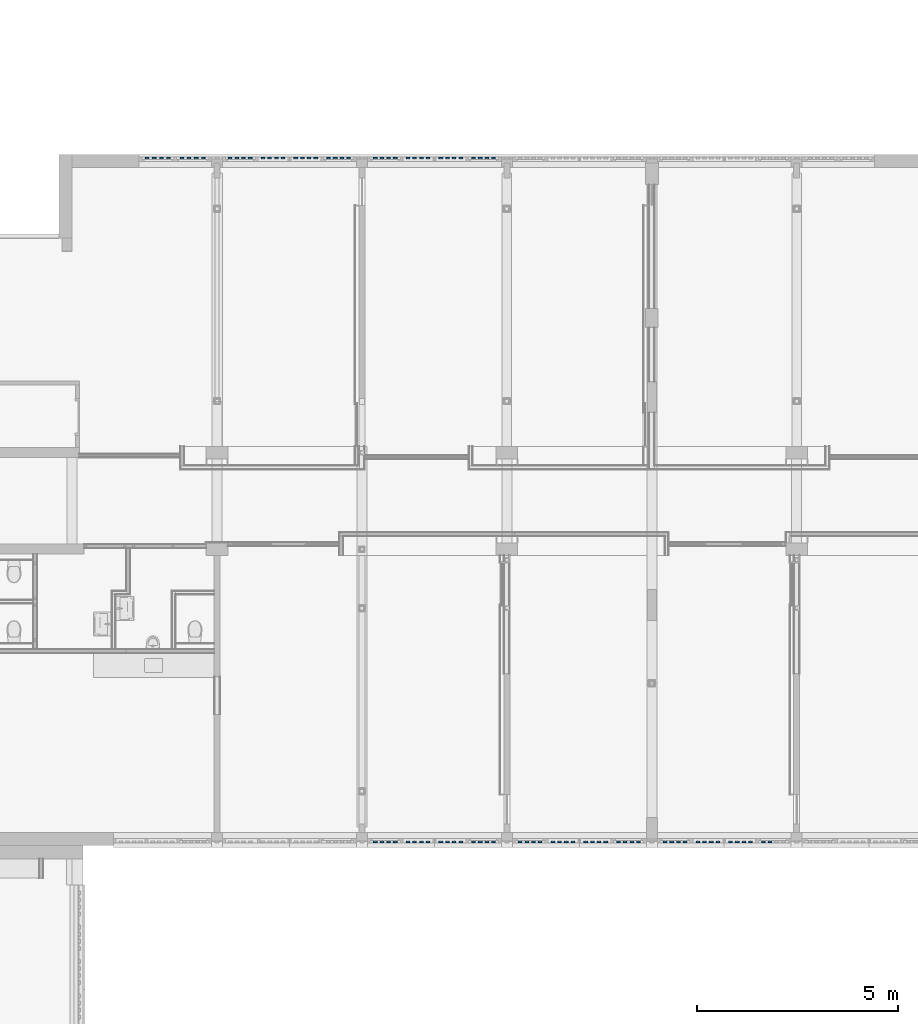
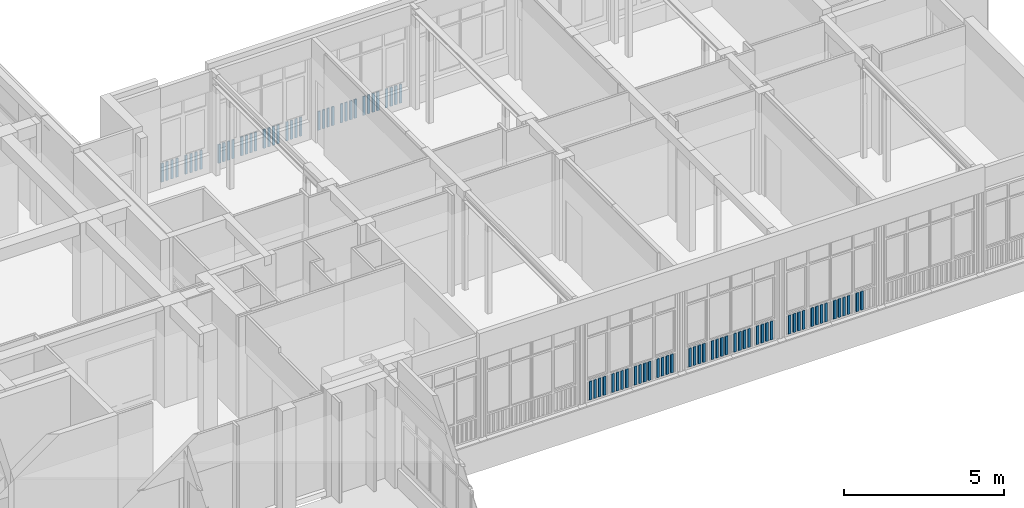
# One storey, part 54 of 135: 86 columns.
"""IFC2X3 building model written with IfcOpenShell, lengths in millimetres."""

from ifc_helpers import new_model, entity, si_unit, converted_unit, derived_unit, money_unit, direction, frame, origin_with_axes, place, context, subcontext, project, spatial, faceted_brep, material, type_object, element, save


model = new_model("IFC2X3")

# Units and contexts
model_context = context("Model", 3, precision=0.01, world=origin_with_axes(), true_north=direction((0.0, 1.0)))
body_context = subcontext(model_context, "Body", "Model", "MODEL_VIEW")
ifc_project = project(units=[si_unit("LENGTHUNIT", "METRE", prefix="MILLI"), si_unit("AREAUNIT", "SQUARE_METRE"), si_unit("VOLUMEUNIT", "CUBIC_METRE"), converted_unit("PLANEANGLEUNIT", "DEGREE", entity("IfcPlaneAngleMeasure", 0.0174532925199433), si_unit("PLANEANGLEUNIT", "RADIAN"), dimensions=[0, 0, 0, 0, 0, 0, 0]), money_unit("EUR"), converted_unit("TIMEUNIT", "Year", entity("IfcTimeMeasure", 31557600.0), si_unit("TIMEUNIT", "SECOND"), dimensions=[0, 0, 1, 0, 0, 0, 0]), si_unit("MASSUNIT", "GRAM", prefix="KILO"), si_unit("THERMODYNAMICTEMPERATUREUNIT", "DEGREE_CELSIUS"), si_unit("LUMINOUSINTENSITYUNIT", "LUMEN"), si_unit("ENERGYUNIT", "JOULE", prefix="MEGA"), derived_unit("THERMALCONDUCTANCEUNIT", [(si_unit("POWERUNIT", "WATT"), 1), (si_unit("LENGTHUNIT", "METRE"), -1), (si_unit("THERMODYNAMICTEMPERATUREUNIT", "KELVIN"), -1)]), derived_unit("SPECIFICHEATCAPACITYUNIT", [(si_unit("ENERGYUNIT", "JOULE"), 1), (si_unit("MASSUNIT", "GRAM", prefix="KILO"), -1), (si_unit("THERMODYNAMICTEMPERATUREUNIT", "KELVIN"), -1)]), derived_unit("MASSDENSITYUNIT", [(si_unit("MASSUNIT", "GRAM", prefix="KILO"), 1), (si_unit("VOLUMEUNIT", "CUBIC_METRE"), -1)])], contexts=[model_context])

# Site, building, storey
site_placement = place(None, origin_with_axes())
site = spatial("IfcSite", under=ifc_project, at=site_placement, Name="Site", CompositionType="ELEMENT")
building_placement = place(site_placement, origin_with_axes())
building = spatial("IfcBuilding", under=site, at=building_placement, Name="Naam gebouw", CompositionType="ELEMENT")
storey_placement = place(building_placement, origin_with_axes())
storey = spatial("IfcBuildingStorey", under=building, at=storey_placement, Name="Begane grond N", CompositionType="ELEMENT", Elevation=0.0)

# Columns
ifc_material = material(Name="Metaal - Staal C")
column_type = type_object("IfcColumnType", Name="Metaal - Staal C 90 x 44", PredefinedType="COLUMN")
for number, where, z_axis, x_axis, name in (
    (1, (39929.08333333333, 10752.91242510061, 66.99999999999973), (0.0, 0.0, 1.0), (1.0, 0.0, 0.0), "_Kolom-x"),
    (2, (40095.19444444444, 10752.91242510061, 66.99999999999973), (0.0, 0.0, 1.0), (1.0, 0.0, 0.0), "_Kolom-x"),
    (3, (40427.41666666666, 10752.91242510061, 66.99999999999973), (0.0, 0.0, 1.0), (1.0, 0.0, 0.0), "_Kolom-x"),
    (4, (40261.30555555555, 10752.91242510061, 66.99999999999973), (0.0, 0.0, 1.0), (1.0, 0.0, 0.0), "_Kolom-x"),
    (5, (40743.58333333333, 10752.91242510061, 66.99999999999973), (0.0, 0.0, 1.0), (1.0, 0.0, 0.0), "_Kolom-x"),
    (6, (40909.69444444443, 10752.91242510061, 66.99999999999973), (0.0, 0.0, 1.0), (1.0, 0.0, 0.0), "_Kolom-x"),
    (7, (41075.80555555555, 10752.91242510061, 66.99999999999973), (0.0, 0.0, 1.0), (1.0, 0.0, 0.0), "_Kolom-x"),
    (8, (41241.91666666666, 10752.91242510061, 66.99999999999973), (0.0, 0.0, 1.0), (1.0, 0.0, 0.0), "_Kolom-x"),
    (9, (41558.08333333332, 10752.91242510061, 66.99999999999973), (0.0, 0.0, 1.0), (1.0, 0.0, 0.0), "_Kolom-x"),
    (10, (41724.19444444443, 10752.91242510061, 66.99999999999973), (0.0, 0.0, 1.0), (1.0, 0.0, 0.0), "_Kolom-x"),
    (11, (41890.30555555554, 10752.91242510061, 66.99999999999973), (0.0, 0.0, 1.0), (1.0, 0.0, 0.0), "_Kolom-x"),
    (12, (42056.41666666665, 10752.91242510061, 66.99999999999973), (0.0, 0.0, 1.0), (1.0, 0.0, 0.0), "_Kolom-x"),
    (13, (42538.69444444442, 10752.91242510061, 66.99999999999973), (0.0, 0.0, 1.0), (1.0, 0.0, 0.0), "_Kolom-x"),
    (14, (42372.58333333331, 10752.91242510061, 66.99999999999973), (0.0, 0.0, 1.0), (1.0, 0.0, 0.0), "_Kolom-x"),
    (15, (42704.80555555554, 10752.91242510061, 66.99999999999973), (0.0, 0.0, 1.0), (1.0, 0.0, 0.0), "_Kolom-x"),
    (16, (43529.08333333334, 10752.91242510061, 66.99999999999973), (0.0, 0.0, 1.0), (1.0, 0.0, 0.0), "_Kolom-x"),
    (17, (43695.19444444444, 10752.91242510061, 66.99999999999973), (0.0, 0.0, 1.0), (1.0, 0.0, 0.0), "_Kolom-x"),
    (18, (42870.91666666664, 10752.91242510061, 66.99999999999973), (0.0, 0.0, 1.0), (1.0, 0.0, 0.0), "_Kolom-x"),
    (19, (44027.41666666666, 10752.91242510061, 66.99999999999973), (0.0, 0.0, 1.0), (1.0, 0.0, 0.0), "_Kolom-x"),
    (20, (43861.30555555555, 10752.91242510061, 66.99999999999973), (0.0, 0.0, 1.0), (1.0, 0.0, 0.0), "_Kolom-x"),
    (21, (44343.58333333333, 10752.91242510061, 66.99999999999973), (0.0, 0.0, 1.0), (1.0, 0.0, 0.0), "_Kolom-x"),
    (22, (44509.69444444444, 10752.91242510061, 66.99999999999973), (0.0, 0.0, 1.0), (1.0, 0.0, 0.0), "_Kolom-x"),
    (23, (44675.80555555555, 10752.91242510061, 66.99999999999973), (0.0, 0.0, 1.0), (1.0, 0.0, 0.0), "_Kolom-x"),
    (24, (44841.91666666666, 10752.91242510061, 66.99999999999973), (0.0, 0.0, 1.0), (1.0, 0.0, 0.0), "_Kolom-x"),
    (25, (45158.08333333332, 10752.91242510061, 66.99999999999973), (0.0, 0.0, 1.0), (1.0, 0.0, 0.0), "_Kolom-x"),
    (26, (45490.30555555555, 10752.91242510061, 66.99999999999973), (0.0, 0.0, 1.0), (1.0, 0.0, 0.0), "_Kolom-x"),
    (27, (45324.19444444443, 10752.91242510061, 66.99999999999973), (0.0, 0.0, 1.0), (1.0, 0.0, 0.0), "_Kolom-x"),
    (28, (45656.41666666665, 10752.91242510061, 66.99999999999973), (0.0, 0.0, 1.0), (1.0, 0.0, 0.0), "_Kolom-x"),
    (29, (45972.58333333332, 10752.91242510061, 66.99999999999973), (0.0, 0.0, 1.0), (1.0, 0.0, 0.0), "_Kolom-x"),
    (30, (46138.69444444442, 10752.91242510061, 66.99999999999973), (0.0, 0.0, 1.0), (1.0, 0.0, 0.0), "_Kolom-x"),
    (31, (46470.91666666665, 10752.91242510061, 66.99999999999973), (0.0, 0.0, 1.0), (1.0, 0.0, 0.0), "_Kolom-x"),
    (32, (47129.08333333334, 10752.91242510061, 66.99999999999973), (0.0, 0.0, 1.0), (1.0, 0.0, 0.0), "_Kolom-x"),
    (33, (47295.19444444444, 10752.91242510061, 66.99999999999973), (0.0, 0.0, 1.0), (1.0, 0.0, 0.0), "_Kolom-x"),
    (34, (46304.80555555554, 10752.91242510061, 66.99999999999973), (0.0, 0.0, 1.0), (1.0, 0.0, 0.0), "_Kolom-x"),
    (35, (47461.30555555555, 10752.91242510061, 66.99999999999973), (0.0, 0.0, 1.0), (1.0, 0.0, 0.0), "_Kolom-x"),
    (36, (47943.58333333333, 10752.91242510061, 66.99999999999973), (0.0, 0.0, 1.0), (1.0, 0.0, 0.0), "_Kolom-x"),
    (37, (47627.41666666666, 10752.91242510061, 66.99999999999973), (0.0, 0.0, 1.0), (1.0, 0.0, 0.0), "_Kolom-x"),
    (38, (48109.69444444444, 10752.91242510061, 66.99999999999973), (0.0, 0.0, 1.0), (1.0, 0.0, 0.0), "_Kolom-x"),
    (39, (48275.80555555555, 10752.91242510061, 66.99999999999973), (0.0, 0.0, 1.0), (1.0, 0.0, 0.0), "_Kolom-x"),
    (40, (48758.08333333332, 10752.91242510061, 66.99999999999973), (0.0, 0.0, 1.0), (1.0, 0.0, 0.0), "_Kolom-x"),
    (41, (48924.19444444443, 10752.91242510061, 66.99999999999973), (0.0, 0.0, 1.0), (1.0, 0.0, 0.0), "_Kolom-x"),
    (42, (48441.91666666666, 10752.91242510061, 66.99999999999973), (0.0, 0.0, 1.0), (1.0, 0.0, 0.0), "_Kolom-x"),
    (43, (49090.30555555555, 10752.91242510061, 66.99999999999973), (0.0, 0.0, 1.0), (1.0, 0.0, 0.0), "_Kolom-x"),
    (44, (49256.41666666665, 10752.91242510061, 66.99999999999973), (0.0, 0.0, 1.0), (1.0, 0.0, 0.0), "_Kolom-x"),
    (45, (49572.58333333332, 10752.91242510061, 66.99999999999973), (0.0, 0.0, 1.0), (1.0, 0.0, 0.0), "_Kolom-x"),
    (46, (49738.69444444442, 10752.91242510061, 66.99999999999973), (0.0, 0.0, 1.0), (1.0, 0.0, 0.0), "_Kolom-x"),
):
    element("IfcColumn", number, at=place(storey_placement, frame(where, z_axis=z_axis, x_axis=x_axis)), inside=storey, type_object=column_type, material=ifc_material, Name=name, ObjectType="COLUMN", context=body_context, shape_type="Brep", body=[
        faceted_brep([(-45.00000000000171, -22.00000000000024, 715.9999999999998), (-45.00000000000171, -22.00000000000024, 0.0), (45.00000000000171, -22.00000000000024, 0.0), (45.00000000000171, -22.00000000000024, 715.9999999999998), (-45.00000000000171, 22.00000000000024, 715.9999999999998), (-45.00000000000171, 22.00000000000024, 0.0), (45.00000000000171, 22.00000000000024, 0.0), (45.00000000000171, 22.00000000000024, 715.9999999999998)], [[[0, 1, 2, 3]], [[4, 5, 1, 0]], [[2, 1, 5, 6]], [[3, 2, 6, 7]], [[4, 0, 3, 7]], [[7, 6, 5, 4]]]),
    ])
for number, where, z_axis, x_axis, name in (
    (47, (42870.91666666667, 27743.91242510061, 67.0), (0.0, 0.0, 1.0), (-1.0, 0.0, 0.0), "_Kolom-x"),
    (48, (42704.80555555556, 27743.91242510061, 67.0), (0.0, 0.0, 1.0), (-1.0, 0.0, 0.0), "_Kolom-x"),
    (49, (42538.69444444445, 27743.91242510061, 67.0), (0.0, 0.0, 1.0), (-1.0, 0.0, 0.0), "_Kolom-x"),
    (50, (42372.58333333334, 27743.91242510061, 67.0), (0.0, 0.0, 1.0), (-1.0, 0.0, 0.0), "_Kolom-x"),
    (51, (42056.41666666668, 27743.91242510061, 66.99999999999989), (0.0, 0.0, 1.0), (-1.0, 0.0, 0.0), "_Kolom-x"),
    (52, (41890.30555555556, 27743.91242510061, 66.99999999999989), (0.0, 0.0, 1.0), (-1.0, 0.0, 0.0), "_Kolom-x"),
    (53, (41724.19444444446, 27743.91242510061, 66.99999999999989), (0.0, 0.0, 1.0), (-1.0, 0.0, 0.0), "_Kolom-x"),
    (54, (41558.08333333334, 27743.91242510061, 66.99999999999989), (0.0, 0.0, 1.0), (-1.0, 0.0, 0.0), "_Kolom-x"),
    (55, (41241.91666666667, 27743.91242510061, 66.99999999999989), (0.0, 0.0, 1.0), (-1.0, 0.0, 0.0), "_Kolom-x"),
    (56, (40909.69444444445, 27743.91242510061, 66.99999999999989), (0.0, 0.0, 1.0), (-1.0, 0.0, 0.0), "_Kolom-x"),
    (57, (41075.80555555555, 27743.91242510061, 66.99999999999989), (0.0, 0.0, 1.0), (-1.0, 0.0, 0.0), "_Kolom-x"),
    (58, (40743.58333333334, 27743.91242510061, 66.99999999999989), (0.0, 0.0, 1.0), (-1.0, 0.0, 0.0), "_Kolom-x"),
    (59, (40427.41666666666, 27743.91242510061, 66.99999999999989), (0.0, 0.0, 1.0), (-1.0, 0.0, 0.0), "_Kolom-x"),
    (60, (40261.30555555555, 27743.91242510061, 66.99999999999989), (0.0, 0.0, 1.0), (-1.0, 0.0, 0.0), "_Kolom-x"),
    (61, (40095.19444444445, 27743.91242510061, 66.99999999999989), (0.0, 0.0, 1.0), (-1.0, 0.0, 0.0), "_Kolom-x"),
    (62, (39929.08333333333, 27743.91242510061, 66.99999999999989), (0.0, 0.0, 1.0), (-1.0, 0.0, 0.0), "_Kolom-x"),
    (63, (39267.35173572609, 27743.91242510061, 66.99999999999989), (0.0, 0.0, 1.0), (-1.0, 0.0, 0.0), "_Kolom-x"),
    (64, (39101.24062461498, 27743.91242510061, 66.99999999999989), (0.0, 0.0, 1.0), (-1.0, 0.0, 0.0), "_Kolom-x"),
    (65, (38935.12951350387, 27743.91242510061, 66.99999999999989), (0.0, 0.0, 1.0), (-1.0, 0.0, 0.0), "_Kolom-x"),
    (66, (38769.01840239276, 27743.91242510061, 66.99999999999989), (0.0, 0.0, 1.0), (-1.0, 0.0, 0.0), "_Kolom-x"),
    (67, (38452.8517357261, 27743.91242510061, 66.99999999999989), (0.0, 0.0, 1.0), (-1.0, 0.0, 0.0), "_Kolom-x"),
    (68, (38286.74062461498, 27743.91242510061, 66.99999999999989), (0.0, 0.0, 1.0), (-1.0, 0.0, 0.0), "_Kolom-x"),
    (69, (38120.62951350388, 27743.91242510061, 66.99999999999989), (0.0, 0.0, 1.0), (-1.0, 0.0, 0.0), "_Kolom-x"),
    (70, (37954.51840239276, 27743.91242510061, 66.99999999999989), (0.0, 0.0, 1.0), (-1.0, 0.0, 0.0), "_Kolom-x"),
    (71, (37638.3517357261, 27743.91242510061, 66.99999999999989), (0.0, 0.0, 1.0), (-1.0, 0.0, 0.0), "_Kolom-x"),
    (72, (37472.24062461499, 27743.91242510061, 66.99999999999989), (0.0, 0.0, 1.0), (-1.0, 0.0, 0.0), "_Kolom-x"),
    (73, (37306.12951350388, 27743.91242510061, 66.99999999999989), (0.0, 0.0, 1.0), (-1.0, 0.0, 0.0), "_Kolom-x"),
    (74, (37140.01840239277, 27743.91242510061, 66.99999999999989), (0.0, 0.0, 1.0), (-1.0, 0.0, 0.0), "_Kolom-x"),
    (75, (36823.8517357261, 27743.91242510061, 66.99999999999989), (0.0, 0.0, 1.0), (-1.0, 0.0, 0.0), "_Kolom-x"),
    (76, (36657.74062461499, 27743.91242510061, 66.99999999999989), (0.0, 0.0, 1.0), (-1.0, 0.0, 0.0), "_Kolom-x"),
    (77, (36491.62951350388, 27743.91242510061, 66.99999999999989), (0.0, 0.0, 1.0), (-1.0, 0.0, 0.0), "_Kolom-x"),
    (78, (36325.51840239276, 27743.91242510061, 66.99999999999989), (0.0, 0.0, 1.0), (-1.0, 0.0, 0.0), "_Kolom-x"),
):
    element("IfcColumn", number, at=place(storey_placement, frame(where, z_axis=z_axis, x_axis=x_axis)), inside=storey, type_object=column_type, material=ifc_material, Name=name, ObjectType="COLUMN", context=body_context, shape_type="Brep", body=[
        faceted_brep([(-45.00000000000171, -21.99999999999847, 716.0), (-45.00000000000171, -21.99999999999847, 0.0), (45.00000000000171, -21.99999999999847, 0.0), (45.00000000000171, -21.99999999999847, 716.0), (-45.00000000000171, 21.99999999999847, 716.0), (-45.00000000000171, 21.99999999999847, 0.0), (45.00000000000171, 21.99999999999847, 0.0), (45.00000000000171, 21.99999999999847, 716.0)], [[[0, 1, 2, 3]], [[4, 5, 1, 0]], [[2, 1, 5, 6]], [[3, 2, 6, 7]], [[4, 0, 3, 7]], [[7, 6, 5, 4]]]),
    ])
for number, where, z_axis, x_axis, name in (
    (79, (35662.24999999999, 27743.9124251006, 67.00000000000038), (0.0, 0.0, 1.0), (-1.0, 0.0, 0.0), "_Kolom-x"),
    (80, (35484.58333333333, 27743.9124251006, 67.00000000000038), (0.0, 0.0, 1.0), (-1.0, 0.0, 0.0), "_Kolom-x"),
    (81, (35306.91666666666, 27743.9124251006, 67.00000000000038), (0.0, 0.0, 1.0), (-1.0, 0.0, 0.0), "_Kolom-x"),
    (82, (35129.24999999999, 27743.9124251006, 67.00000000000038), (0.0, 0.0, 1.0), (-1.0, 0.0, 0.0), "_Kolom-x"),
    (83, (34795.74999999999, 27743.9124251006, 67.00000000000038), (0.0, 0.0, 1.0), (-1.0, 0.0, 0.0), "_Kolom-x"),
    (84, (34618.08333333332, 27743.9124251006, 67.00000000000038), (0.0, 0.0, 1.0), (-1.0, 0.0, 0.0), "_Kolom-x"),
    (85, (34440.41666666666, 27743.9124251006, 67.00000000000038), (0.0, 0.0, 1.0), (-1.0, 0.0, 0.0), "_Kolom-x"),
    (86, (34262.74999999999, 27743.9124251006, 67.00000000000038), (0.0, 0.0, 1.0), (-1.0, 0.0, 0.0), "_Kolom-x"),
):
    element("IfcColumn", number, at=place(storey_placement, frame(where, z_axis=z_axis, x_axis=x_axis)), inside=storey, type_object=column_type, material=ifc_material, Name=name, ObjectType="COLUMN", context=body_context, shape_type="Brep", body=[
        faceted_brep([(-45.00000000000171, -21.99999999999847, 715.9999999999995), (-45.00000000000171, -21.99999999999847, 0.0), (45.00000000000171, -21.99999999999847, 0.0), (45.00000000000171, -21.99999999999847, 715.9999999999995), (-45.00000000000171, 21.99999999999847, 715.9999999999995), (-45.00000000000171, 21.99999999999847, 0.0), (45.00000000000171, 21.99999999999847, 0.0), (45.00000000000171, 21.99999999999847, 715.9999999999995)], [[[0, 1, 2, 3]], [[4, 5, 1, 0]], [[2, 1, 5, 6]], [[3, 2, 6, 7]], [[4, 0, 3, 7]], [[7, 6, 5, 4]]]),
    ])

save(model, "model.ifc")
